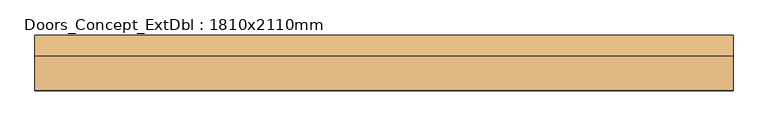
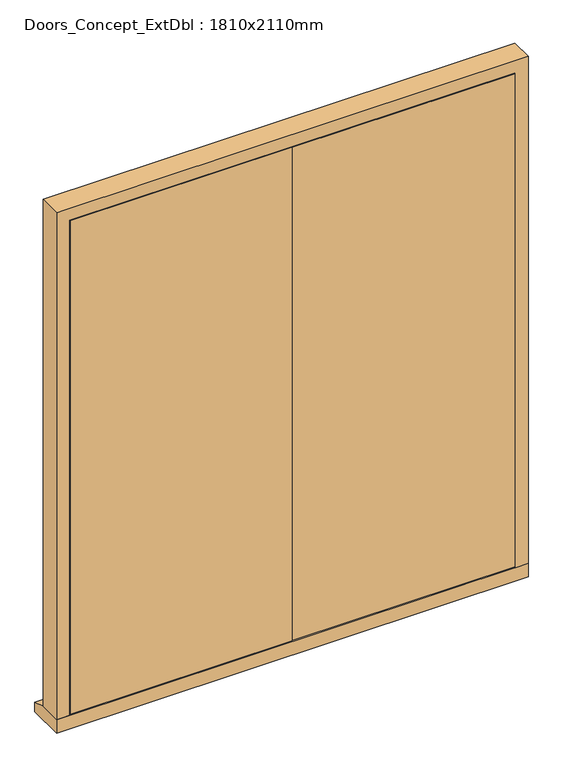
"""IFC4 building model written with IfcOpenShell, lengths in millimetres: door geometry, Doors_Concept_ExtDbl : 1810x2110mm."""

from ifc_helpers import new_model, si_unit, frame, origin, place, context, project, spatial, polyline, outline, extrude, faceted_brep, source, transform, mapped, element, save


def doors_concept_extdbl_1810x2110mm_68805f83(model_context):
    return source(origin(), model_context, "Body", "SolidModel", [
        faceted_brep([(834.5, 176.0, 54.5), (905.0, 176.0, 54.5), (905.0, 87.0, 54.5), (856.5, 87.0, 54.5), (856.5, 134.0, 54.5), (834.5, 134.0, 54.5), (834.5, 176.0, 2039.5), (-834.5, 176.0, 2039.5), (-834.5, 176.0, 54.5), (-905.0, 176.0, 54.5), (-905.0, 176.0, 2110.0), (905.0, 176.0, 2110.0), (905.0, 87.0, 2110.0), (-905.0, 87.0, 2110.0), (-905.0, 87.0, 54.5), (-856.5, 87.0, 54.5), (-856.5, 87.0, 2061.5), (856.5, 87.0, 2061.5), (856.5, 134.0, 2061.5), (-856.5, 134.0, 2061.5), (-856.5, 134.0, 54.5), (-834.5, 134.0, 54.5), (-834.5, 134.0, 2039.5), (834.5, 134.0, 2039.5)], [[[0, 1, 2, 3, 4, 5]], [[1, 0, 6, 7, 8, 9, 10, 11]], [[2, 1, 11, 12]], [[3, 2, 12, 13, 14, 15, 16, 17]], [[4, 3, 17, 18]], [[5, 4, 18, 19, 20, 21, 22, 23]], [[0, 5, 23, 6]], [[7, 22, 21, 8]], [[8, 21, 20, 15, 14, 9]], [[13, 10, 9, 14]], [[19, 16, 15, 20]], [[12, 11, 10, 13]], [[18, 17, 16, 19]], [[6, 23, 22, 7]]]),
        extrude(outline(polyline([(87.0, 0.0), (87.0, 54.5), (176.0, 54.5), (231.0, 38.5947221), (231.0, 0.0), (87.0, 0.0)])), frame((-905.0, 0.0, 0.0), z_axis=(1.0, 0.0, 0.0), x_axis=(0.0, 1.0, 0.0)), (0.0, 0.0, 1.0), 1810.0),
        extrude(outline(polyline([(853.5, 87.0), (1.5, 87.0), (1.5, 131.0), (853.5, 131.0), (853.5, 87.0)])), frame((0.0, 0.0, 58.5), z_axis=(0.0, 0.0, 1.0), x_axis=(1.0, 0.0, 0.0)), (0.0, 0.0, 1.0), 2000.0),
        extrude(outline(polyline([(-1.5, 87.0), (-853.5, 87.0), (-853.5, 131.0), (-1.5, 131.0), (-1.5, 87.0)])), frame((0.0, 0.0, 58.5), z_axis=(0.0, 0.0, 1.0), x_axis=(1.0, 0.0, 0.0)), (0.0, 0.0, 1.0), 2000.0),
    ])


if __name__ == "__main__":
    model = new_model("IFC4")
    model_context = context("Model", 3, world=origin())
    ifc_project = project(units=[si_unit("LENGTHUNIT", "METRE", prefix="MILLI")], contexts=[model_context])
    site = spatial("IfcSite", under=ifc_project)
    building = spatial("IfcBuilding", under=site)
    placement = place(None, origin())
    doors_concept_extdbl_1810x2110mm_shape = doors_concept_extdbl_1810x2110mm_68805f83(model_context)
    element("IfcDoor", 1, ObjectType="Doors_Concept_ExtDbl : 1810x2110mm", at=placement, inside=building, context=model_context, shape_type="MappedRepresentation", body=[
        mapped(doors_concept_extdbl_1810x2110mm_shape, transform((0.0, 0.0, 0.0), x_axis=(1.0, 0.0, 0.0), y_axis=(0.0, 1.0, 0.0), z_axis=(0.0, 0.0, 1.0))),
    ])
    save(model, "model.ifc")
